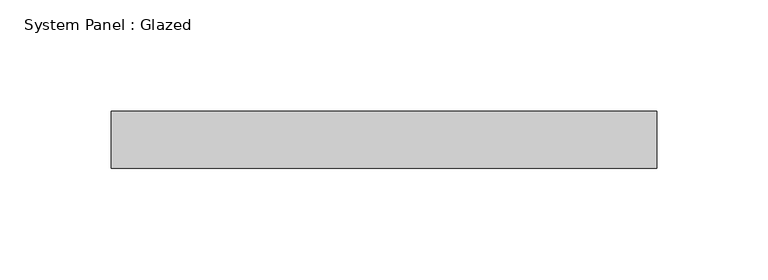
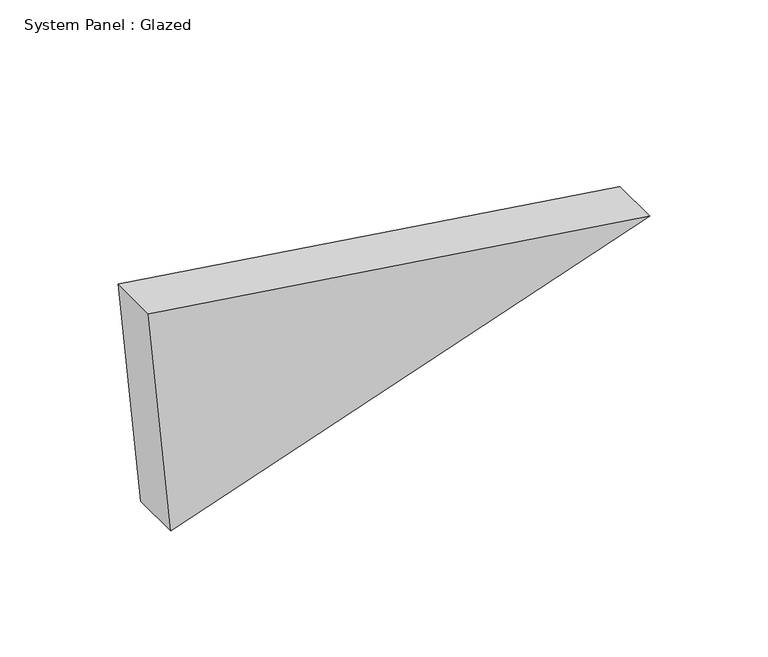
"""IFC4 building model written with IfcOpenShell, lengths in millimetres: plate geometry, System Panel : Glazed."""

from ifc_helpers import new_model, si_unit, frame, origin, place, context, project, spatial, polyline, outline, extrude, source, transform, mapped, element, save


def system_panel_glazed_cac35f12(model_context):
    return source(origin(), model_context, "Body", "SweptSolid", [
        extrude(outline(polyline([(0.0, -111.2715934), (80.694263, 122.2976882), (115.8976043, -122.2976882), (0.0, -111.2715934)])), frame((0.0, 19.05, 0.0), z_axis=(0.0, 1.0, 0.0), x_axis=(0.0, 0.0, 1.0)), (0.0, 0.0, 1.0), 25.4),
    ])


if __name__ == "__main__":
    model = new_model("IFC4")
    model_context = context("Model", 3, world=origin())
    ifc_project = project(units=[si_unit("LENGTHUNIT", "METRE", prefix="MILLI")], contexts=[model_context])
    site = spatial("IfcSite", under=ifc_project)
    building = spatial("IfcBuilding", under=site)
    placement = place(None, origin())
    system_panel_glazed_shape = system_panel_glazed_cac35f12(model_context)
    element("IfcPlate", 1, ObjectType="System Panel : Glazed", at=placement, inside=building, context=model_context, shape_type="MappedRepresentation", body=[
        mapped(system_panel_glazed_shape, transform((0.0, 0.0, 0.0), x_axis=(1.0, 0.0, 0.0), y_axis=(0.0, 1.0, 0.0), z_axis=(0.0, 0.0, 1.0))),
    ])
    save(model, "model.ifc")
